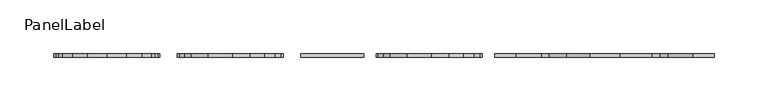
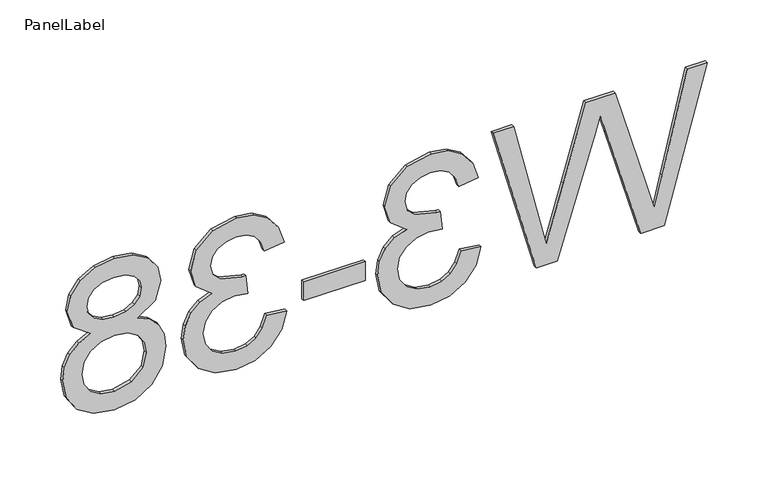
"""IFC4 building model written with IfcOpenShell, lengths in millimetres: fastener geometry, PanelLabel : Miranda."""

from ifc_helpers import new_model, si_unit, frame, origin, place, context, project, spatial, polyline, outline, extrude, source, transform, mapped, element, save


def panellabel_a7a4828a(model_context):
    return source(origin(), model_context, "Body", "SweptSolid", [
        extrude(outline(polyline([(1310.9113766, 268.5683654), (1460.9667612, 309.4892308), (1460.9667612, 290.1461538), (1362.3463766, 266.4069231), (1331.9030112, 259.08), (1358.8294535, 251.2401923), (1460.9667612, 221.4928846), (1460.9667612, 193.6139423), (1386.9282035, 171.9995192), (1331.9030112, 155.9169231), (1361.4671458, 148.8098077), (1460.9667612, 124.8507692), (1460.9667612, 105.5076923), (1310.9113766, 146.4651923), (1310.9113766, 166.5043269), (1426.6767612, 202.4795192), (1442.8326266, 207.4984615), (1423.3796458, 213.1401923), (1310.9113766, 245.9281731), (1310.9113766, 268.5683654)])), frame((0.0, 100.80625, 0.0), z_axis=(0.0, 1.0, 0.0), x_axis=(0.0, 0.0, 1.0)), (0.0, 0.0, 1.0), 3.175),
        extrude(outline(polyline([(1350.7698381, 93.7846154), (1353.1144535, 75.0276923), (1341.327266, 70.8284495), (1333.3683958, 64.6784135), (1328.8348622, 56.2753486), (1327.3236843, 45.3170192), (1329.4026987, 32.4582692), (1335.639742, 22.5302885), (1344.9449343, 16.1833413), (1356.2283958, 14.0676923), (1366.9394415, 16.165024), (1375.6264247, 22.4570192), (1381.3826386, 31.9820192), (1383.3013766, 43.7783654), (1381.2498381, 56.9301923), (1400.0067612, 54.8420192), (1399.7869535, 51.8379808), (1405.172242, 30.5532692), (1412.0045977, 23.4644712), (1421.7310881, 21.1015385), (1429.8319174, 22.8142067), (1436.4032516, 27.9522115), (1440.7581915, 35.7920192), (1442.2098381, 45.6100962), (1440.7444535, 55.4464904), (1436.3482997, 63.4877885), (1429.0213766, 69.3584856), (1418.7636843, 72.6830769), (1421.1082997, 91.44), (1437.9510641, 85.9173317), (1450.5258958, 76.0900962), (1458.3565448, 62.6451923), (1460.9667612, 46.2695192), (1455.8195977, 23.6476442), (1441.7519054, 7.8214904), (1422.8301266, 2.3446154), (1405.5385881, 7.5467308), (1393.1194535, 22.9332692), (1388.3752708, 11.191875), (1380.2973381, 2.4911538), (1369.3252708, -2.8941346), (1355.8986843, -4.6892308), (1337.6180112, -1.0990385), (1322.3413766, 9.6715385), (1312.010415, 25.928149), (1308.5667612, 45.9764423), (1311.5066891, 64.1105769), (1320.3264727, 78.8743269), (1333.8171698, 89.1411779), (1350.7698381, 93.7846154)])), frame((0.0, 100.80625, 0.0), z_axis=(0.0, 1.0, 0.0), x_axis=(0.0, 0.0, 1.0)), (0.0, 0.0, 1.0), 3.175),
        extrude(outline(polyline([(-75.0276923, 103.98125), (-16.4123077, 103.98125), (-16.4123077, 100.80625), (-75.0276923, 100.80625), (-75.0276923, 103.98125)])), frame((0.0, 0.0, 1355.4590689), z_axis=(0.0, 0.0, 1.0), x_axis=(1.0, 0.0, 0.0)), (0.0, 0.0, 1.0), 18.7569231),
        extrude(outline(polyline([(1350.7698381, -91.44), (1353.1144535, -110.1969231), (1341.327266, -114.3961659), (1333.3683958, -120.5462019), (1328.8348622, -128.9492668), (1327.3236843, -139.9075962), (1329.4026987, -152.7663462), (1335.639742, -162.6943269), (1344.9449343, -169.041274), (1356.2283958, -171.1569231), (1366.9394415, -169.0595913), (1375.6264247, -162.7675962), (1381.3826386, -153.2425962), (1383.3013766, -141.44625), (1381.2498381, -128.2944231), (1400.0067612, -130.3825962), (1399.7869535, -133.3866346), (1405.172242, -154.6713462), (1412.0045977, -161.7601442), (1421.7310881, -164.1230769), (1429.8319174, -162.4104087), (1436.4032516, -157.2724038), (1440.7581915, -149.4325962), (1442.2098381, -139.6145192), (1440.7444535, -129.778125), (1436.3482997, -121.7368269), (1429.0213766, -115.8661298), (1418.7636843, -112.5415385), (1421.1082997, -93.7846154), (1437.9510641, -99.3072837), (1450.5258958, -109.1345192), (1458.3565448, -122.5794231), (1460.9667612, -138.9550962), (1455.8195977, -161.5769712), (1441.7519054, -177.403125), (1422.8301266, -182.88), (1405.5385881, -177.6778846), (1393.1194535, -162.2913462), (1388.3752708, -174.0327404), (1380.2973381, -182.7334615), (1369.3252708, -188.11875), (1355.8986843, -189.9138462), (1337.6180112, -186.3236538), (1322.3413766, -175.5530769), (1312.010415, -159.2964663), (1308.5667612, -139.2481731), (1311.5066891, -121.1140385), (1320.3264727, -106.3502885), (1333.8171698, -96.0834375), (1350.7698381, -91.44)])), frame((0.0, 100.80625, 0.0), z_axis=(0.0, 1.0, 0.0), x_axis=(0.0, 0.0, 1.0)), (0.0, 0.0, 1.0), 3.175),
        extrude(outline(polyline([(1393.5590689, -233.6555769), (1405.2088766, -216.5655288), (1423.3430112, -211.0153846), (1438.006016, -214.0377404), (1450.122915, -223.1048077), (1458.2557997, -237.199976), (1460.9667612, -255.3066346), (1458.1916891, -273.5231971), (1449.8664727, -287.8015385), (1437.557242, -297.0334615), (1422.8301266, -300.1107692), (1405.1539247, -294.6338942), (1393.5590689, -278.0200962), (1387.6105232, -289.5645793), (1378.8502708, -297.9676442), (1367.6996097, -303.0919111), (1354.5798381, -304.8), (1336.6471939, -301.4112981), (1321.828492, -291.2451923), (1311.8821939, -275.5472596), (1308.5667612, -255.5630769), (1311.8959319, -235.5788942), (1321.8834439, -219.8809615), (1336.8441049, -209.7148558), (1355.0927227, -206.3261538), (1368.7207997, -208.1029327), (1379.930992, -213.4332692), (1388.3386362, -222.0424038), (1393.5590689, -233.6555769)]), holes=[polyline([(1422.793492, -229.7723077), (1414.6056554, -231.4346034), (1408.0663766, -236.4214904), (1403.7801266, -244.5864303), (1402.3513766, -255.7828846), (1403.7709679, -266.7183173), (1408.029742, -274.7596154), (1414.3492131, -279.7052885), (1421.9508958, -281.3538462), (1429.8410761, -279.6503365), (1436.366617, -274.5398077), (1440.7490328, -266.3886058), (1442.2098381, -255.5630769), (1440.7810881, -244.6688582), (1436.4948381, -236.5313942), (1430.2120016, -231.4620793), (1422.793492, -229.7723077)]), polyline([(1355.7521458, -225.0830769), (1341.6295016, -228.2153365), (1331.060415, -239.2973077), (1327.3236843, -255.7096154), (1329.2882155, -268.4767788), (1335.1818093, -278.0567308), (1344.1069174, -284.0464904), (1355.165992, -286.0430769), (1366.4128189, -283.9823798), (1375.5348381, -277.8002885), (1381.5795497, -268.0005288), (1383.5944535, -255.0868269), (1381.6070256, -242.4982572), (1375.644742, -233.0144712), (1366.6967372, -227.0659255), (1355.7521458, -225.0830769)])]), frame((0.0, 100.80625, 0.0), z_axis=(0.0, 1.0, 0.0), x_axis=(0.0, 0.0, 1.0)), (0.0, 0.0, 1.0), 3.175),
    ])


if __name__ == "__main__":
    model = new_model("IFC4")
    model_context = context("Model", 3, world=origin())
    ifc_project = project(units=[si_unit("LENGTHUNIT", "METRE", prefix="MILLI")], contexts=[model_context])
    site = spatial("IfcSite", under=ifc_project)
    building = spatial("IfcBuilding", under=site)
    placement = place(None, origin())
    panellabel_shape = panellabel_a7a4828a(model_context)
    element("IfcFastener", 1, ObjectType="PanelLabel : Miranda", at=placement, inside=building, context=model_context, shape_type="MappedRepresentation", body=[
        mapped(panellabel_shape, transform((0.0, 0.0, 0.0), x_axis=(1.0, 0.0, 0.0), y_axis=(0.0, 1.0, 0.0), z_axis=(0.0, 0.0, 1.0))),
    ])
    save(model, "model.ifc")
